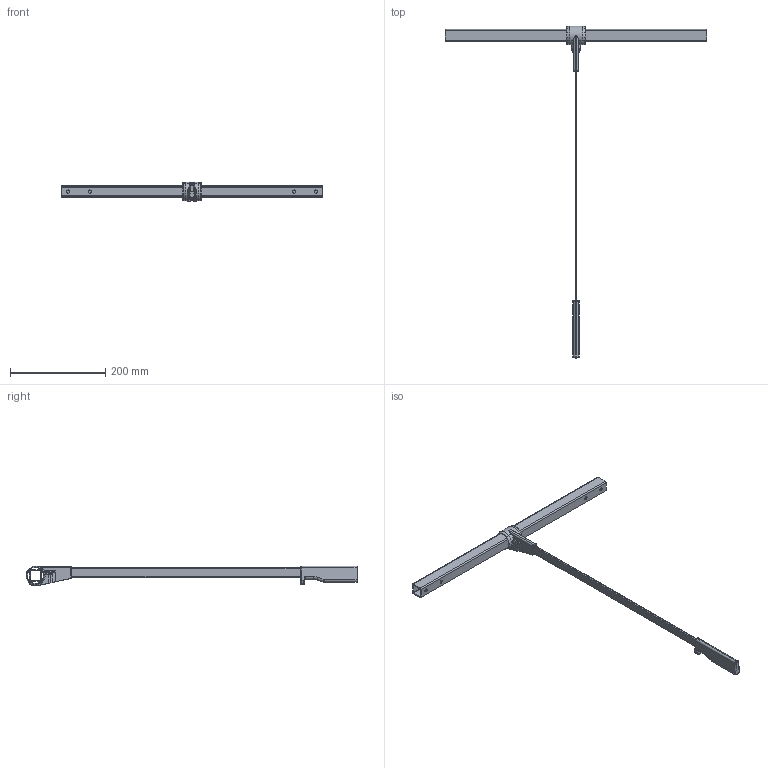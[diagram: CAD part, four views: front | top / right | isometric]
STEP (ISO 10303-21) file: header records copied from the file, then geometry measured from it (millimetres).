
FILE_DESCRIPTION((''),'2;1');
FILE_NAME('238278-MITTE-625-808_SW0001','2023-02-06T09:50:21',('1ke04'),('Kesseboehmer'),'CREO PARAMETRIC BY PTC INC, 2020414','CREO PARAMETRIC BY PTC INC, 2020414','');
FILE_SCHEMA(('AUTOMOTIVE_DESIGN { 1 0 10303 214 1 1 1 1 }'));
Length unit declared in the file: millimetre
Products named in the file (1): 238278-MITTE-625-808_SW0001
Bounding box: 550 x 697.84 x 41.7 mm (x, y, z)
Volume: 222251.3 mm3; surface area: 157244 mm2
Topology: 2 solids, 2 shells, 769 faces, 1962 edges, 1197 vertices
Faces by surface type: plane 285, cylinder 257, bspline 94, torus 87, cone 26, sphere 20
Entity records: 33816 total; most frequent: CARTESIAN_POINT 11917, ORIENTED_EDGE 3924, DIRECTION 3690, EDGE_CURVE 1962, AXIS2_PLACEMENT_3D 1361, VERTEX_POINT 1197, VECTOR 965, LINE 965
